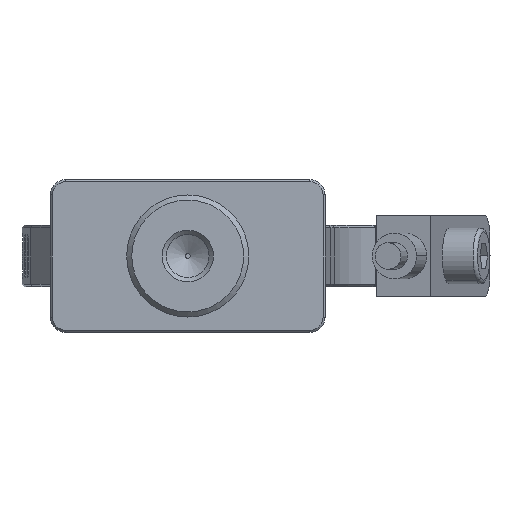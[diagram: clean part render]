
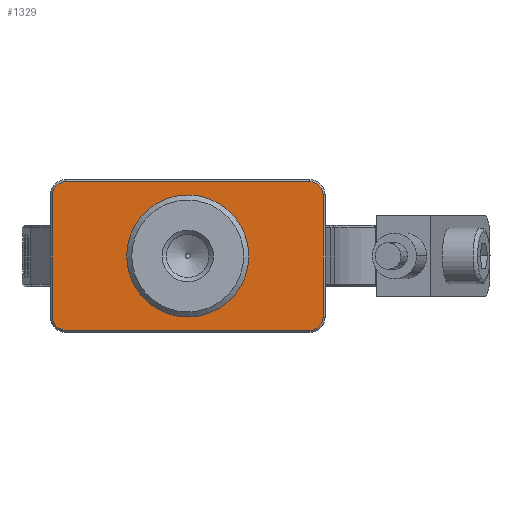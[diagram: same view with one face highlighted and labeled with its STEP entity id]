
A CAD part, front view. The second image highlights one B-rep face of the part: STEP entity #1329.
In plain terms, the highlighted planar face has unit normal (0, -1, 0).
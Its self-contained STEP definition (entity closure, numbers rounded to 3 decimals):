
#446=CIRCLE('',#9581,6.);
#506=CIRCLE('',#9681,1.3);
#507=CIRCLE('',#9682,1.3);
#508=CIRCLE('',#9683,1.3);
#509=CIRCLE('',#9684,1.3);
#979=FACE_BOUND('',#2757,.T.);
#1329=ADVANCED_FACE('',(#2143,#979),#1736,.T.);
#1736=PLANE('',#9685);
#2143=FACE_OUTER_BOUND('',#2756,.T.);
#2756=EDGE_LOOP('',(#4510,#4511,#4512,#4513,#4514,#4515,#4516,#4517));
#2757=EDGE_LOOP('',(#4518));
#4510=ORIENTED_EDGE('',*,*,#7140,.T.);
#4511=ORIENTED_EDGE('',*,*,#7141,.T.);
#4512=ORIENTED_EDGE('',*,*,#7142,.T.);
#4513=ORIENTED_EDGE('',*,*,#7143,.T.);
#4514=ORIENTED_EDGE('',*,*,#7144,.T.);
#4515=ORIENTED_EDGE('',*,*,#7145,.T.);
#4516=ORIENTED_EDGE('',*,*,#7146,.T.);
#4517=ORIENTED_EDGE('',*,*,#7147,.T.);
#4518=ORIENTED_EDGE('',*,*,#7016,.F.);
#5981=VERTEX_POINT('',#15276);
#6085=VERTEX_POINT('',#15708);
#6086=VERTEX_POINT('',#15709);
#6087=VERTEX_POINT('',#15711);
#6088=VERTEX_POINT('',#15713);
#6089=VERTEX_POINT('',#15715);
#6090=VERTEX_POINT('',#15717);
#6091=VERTEX_POINT('',#15719);
#6092=VERTEX_POINT('',#15721);
#7016=EDGE_CURVE('',#5981,#5981,#446,.T.);
#7140=EDGE_CURVE('',#6085,#6086,#506,.T.);
#7141=EDGE_CURVE('',#6086,#6087,#8104,.T.);
#7142=EDGE_CURVE('',#6087,#6088,#507,.T.);
#7143=EDGE_CURVE('',#6088,#6089,#8105,.T.);
#7144=EDGE_CURVE('',#6089,#6090,#508,.T.);
#7145=EDGE_CURVE('',#6090,#6091,#8106,.T.);
#7146=EDGE_CURVE('',#6091,#6092,#509,.T.);
#7147=EDGE_CURVE('',#6092,#6085,#8107,.T.);
#8104=LINE('',#15710,#8844);
#8105=LINE('',#15714,#8845);
#8106=LINE('',#15718,#8846);
#8107=LINE('',#15722,#8847);
#8844=VECTOR('',#11731,1.);
#8845=VECTOR('',#11734,1.);
#8846=VECTOR('',#11737,1.);
#8847=VECTOR('',#11740,1.);
#9581=AXIS2_PLACEMENT_3D('',#15275,#11473,#11474);
#9681=AXIS2_PLACEMENT_3D('',#15707,#11729,#11730);
#9682=AXIS2_PLACEMENT_3D('',#15712,#11732,#11733);
#9683=AXIS2_PLACEMENT_3D('',#15716,#11735,#11736);
#9684=AXIS2_PLACEMENT_3D('',#15720,#11738,#11739);
#9685=AXIS2_PLACEMENT_3D('',#15723,#11741,#11742);
#11473=DIRECTION('',(0.,-1.,0.));
#11474=DIRECTION('',(0.,0.,-1.));
#11729=DIRECTION('',(0.,-1.,0.));
#11730=DIRECTION('',(0.,0.,-1.));
#11731=DIRECTION('',(0.,0.,-1.));
#11732=DIRECTION('',(0.,-1.,0.));
#11733=DIRECTION('',(0.,0.,-1.));
#11734=DIRECTION('',(1.,0.,0.));
#11735=DIRECTION('',(0.,-1.,0.));
#11736=DIRECTION('',(0.,0.,-1.));
#11737=DIRECTION('',(0.,0.,1.));
#11738=DIRECTION('',(0.,-1.,0.));
#11739=DIRECTION('',(0.,0.,-1.));
#11740=DIRECTION('',(-1.,0.,0.));
#11741=DIRECTION('',(0.,-1.,0.));
#11742=DIRECTION('',(0.,0.,-1.));
#15275=CARTESIAN_POINT('',(0.,-4.,-7.5));
#15276=CARTESIAN_POINT('',(0.,-4.,-13.5));
#15707=CARTESIAN_POINT('',(-12.,-4.,-1.5));
#15708=CARTESIAN_POINT('',(-12.,-4.,-0.2));
#15709=CARTESIAN_POINT('',(-13.3,-4.,-1.5));
#15710=CARTESIAN_POINT('',(-13.3,-4.,-13.5));
#15711=CARTESIAN_POINT('',(-13.3,-4.,-13.5));
#15712=CARTESIAN_POINT('',(-12.,-4.,-13.5));
#15713=CARTESIAN_POINT('',(-12.,-4.,-14.8));
#15714=CARTESIAN_POINT('',(12.,-4.,-14.8));
#15715=CARTESIAN_POINT('',(12.,-4.,-14.8));
#15716=CARTESIAN_POINT('',(12.,-4.,-13.5));
#15717=CARTESIAN_POINT('',(13.3,-4.,-13.5));
#15718=CARTESIAN_POINT('',(13.3,-4.,-1.5));
#15719=CARTESIAN_POINT('',(13.3,-4.,-1.5));
#15720=CARTESIAN_POINT('',(12.,-4.,-1.5));
#15721=CARTESIAN_POINT('',(12.,-4.,-0.2));
#15722=CARTESIAN_POINT('',(12.5,-4.,-0.2));
#15723=CARTESIAN_POINT('',(12.5,-4.,0.));
